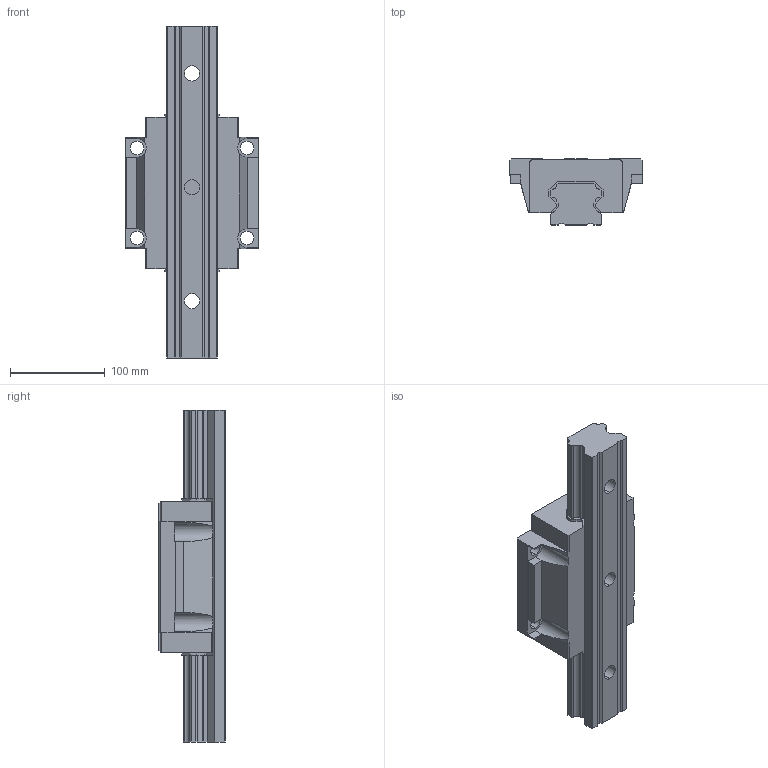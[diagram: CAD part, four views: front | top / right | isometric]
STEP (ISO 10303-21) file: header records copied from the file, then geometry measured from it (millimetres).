
FILE_DESCRIPTION (( 'STEP AP214' ), '1' );
FILE_NAME ('2.1007 Lineaarikelkka HGW55CC.STEP', '2025-09-19T06:41:36', ( '' ), ( '' ), 'SwSTEP 2.0', 'SolidWorks 2025', '' );
FILE_SCHEMA (( 'AUTOMOTIVE_DESIGN' ));
Length unit declared in the file: millimetre
Products named in the file (1): 2.1007 Lineaarikelkka HGW55CC
Bounding box: 140 x 70 x 350 mm (x, y, z)
Volume: 1469218.2 mm3; surface area: 167354.8 mm2
Topology: 2 solids, 2 shells, 175 faces, 504 edges, 336 vertices
Faces by surface type: plane 139, cylinder 36
Entity records: 7675 total; most frequent: CARTESIAN_POINT 1040, ORIENTED_EDGE 1008, DIRECTION 920, EDGE_CURVE 504, LINE 424, VECTOR 424, VERTEX_POINT 336, AXIS2_PLACEMENT_3D 248
